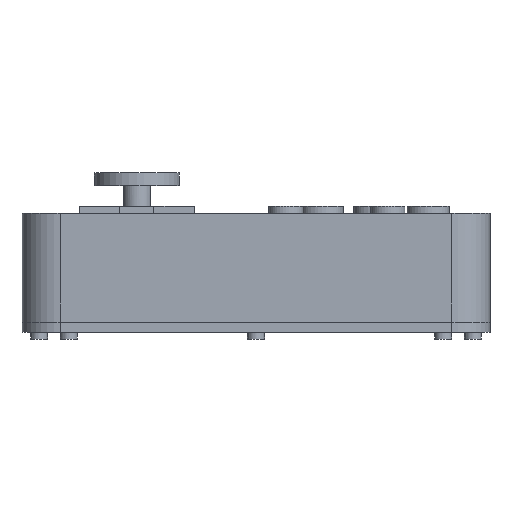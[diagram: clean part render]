
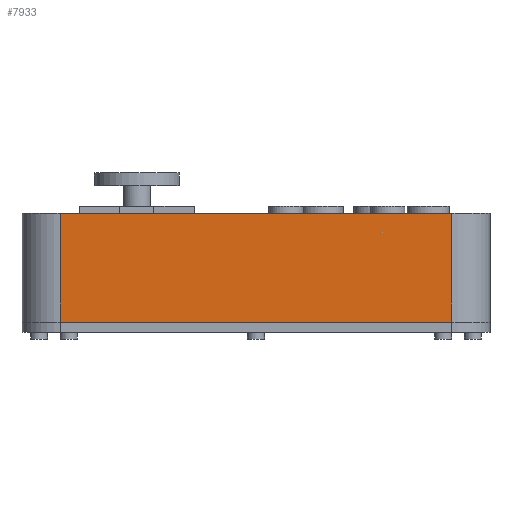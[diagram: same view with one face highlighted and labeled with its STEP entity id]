
A CAD part, front view. The second image highlights one B-rep face of the part: STEP entity #7933.
In plain terms, the highlighted planar face has unit normal (0, -1, 0).
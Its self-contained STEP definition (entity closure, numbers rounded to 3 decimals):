
#6235 = VERTEX_POINT('',#6236);
#6236 = CARTESIAN_POINT('',(-46.,-84.,-25.6));
#6286 = VERTEX_POINT('',#6287);
#6287 = CARTESIAN_POINT('',(46.,-84.,-25.6));
#6294 = EDGE_CURVE('',#6235,#6286,#6295,.T.);
#6295 = LINE('',#6296,#6297);
#6296 = CARTESIAN_POINT('',(-46.,-84.,-25.6));
#6297 = VECTOR('',#6298,1.);
#6298 = DIRECTION('',(1.,0.,0.));
#7852 = VERTEX_POINT('',#7853);
#7853 = CARTESIAN_POINT('',(-46.,-84.,0.));
#7867 = EDGE_CURVE('',#6235,#7852,#7868,.T.);
#7868 = LINE('',#7869,#7870);
#7869 = CARTESIAN_POINT('',(-46.,-84.,-25.6));
#7870 = VECTOR('',#7871,1.);
#7871 = DIRECTION('',(0.,0.,1.));
#7933 = ADVANCED_FACE('',(#7934),#7952,.F.);
#7934 = FACE_BOUND('',#7935,.F.);
#7935 = EDGE_LOOP('',(#7936,#7937,#7938,#7946));
#7936 = ORIENTED_EDGE('',*,*,#6294,.F.);
#7937 = ORIENTED_EDGE('',*,*,#7867,.T.);
#7938 = ORIENTED_EDGE('',*,*,#7939,.T.);
#7939 = EDGE_CURVE('',#7852,#7940,#7942,.T.);
#7940 = VERTEX_POINT('',#7941);
#7941 = CARTESIAN_POINT('',(46.,-84.,0.));
#7942 = LINE('',#7943,#7944);
#7943 = CARTESIAN_POINT('',(-46.,-84.,0.));
#7944 = VECTOR('',#7945,1.);
#7945 = DIRECTION('',(1.,0.,0.));
#7946 = ORIENTED_EDGE('',*,*,#7947,.F.);
#7947 = EDGE_CURVE('',#6286,#7940,#7948,.T.);
#7948 = LINE('',#7949,#7950);
#7949 = CARTESIAN_POINT('',(46.,-84.,-25.6));
#7950 = VECTOR('',#7951,1.);
#7951 = DIRECTION('',(0.,0.,1.));
#7952 = PLANE('',#7953);
#7953 = AXIS2_PLACEMENT_3D('',#7954,#7955,#7956);
#7954 = CARTESIAN_POINT('',(-46.,-84.,-25.6));
#7955 = DIRECTION('',(0.,1.,0.));
#7956 = DIRECTION('',(0.,0.,1.));
